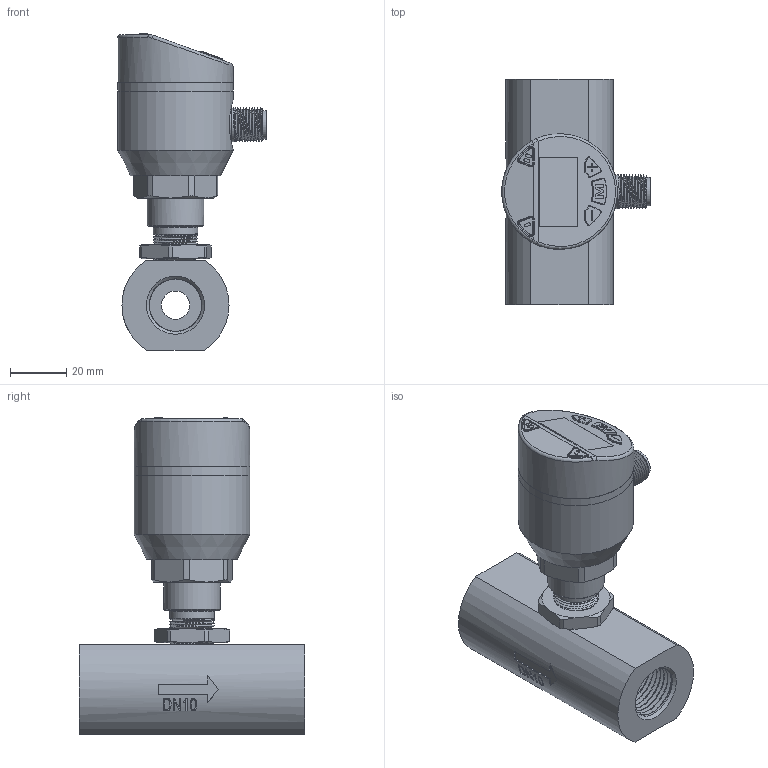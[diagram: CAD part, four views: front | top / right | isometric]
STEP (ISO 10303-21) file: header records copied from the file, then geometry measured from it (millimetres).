
FILE_DESCRIPTION( (''), '2;1');
FILE_NAME( 'QTKA_DN10_female-thread.step', '2024-01-11T15:04:37+08:00', (''), (''), '', '', '');
FILE_SCHEMA (('AUTOMOTIVE_DESIGN { 1 0 10303 214 3 1 1 1 }'));
Length unit declared in the file: millimetre
Products named in the file (1): QTKA DN10_female-thread
Bounding box: 52.7 x 80 x 112.28 mm (x, y, z)
Volume: 103597.3 mm3; surface area: 42160 mm2
Topology: 5 solids, 9 shells, 532 faces, 1309 edges, 836 vertices
Faces by surface type: plane 209, cylinder 173, cone 48, bspline 48, torus 39, extrusion 9, sphere 6
Full cylindrical faces by diameter (mm): 1 x5, 2.7 x4, 8.4 x1, 9.7 x1, 9.8 x1, 10.1 x1, 11.6 x1, 12 x1, 15.9 x1, 18.631 x16, 20 x1, 23 x3, 26 x4, 26.1 x1, 37 x1, 41 x3
Entity records: 35130 total; most frequent: CARTESIAN_POINT 22182, ORIENTED_EDGE 2354, DIRECTION 2259, EDGE_CURVE 1177, AXIS2_PLACEMENT_3D 858, VERTEX_POINT 773, EDGE_LOOP 616, VECTOR 543
